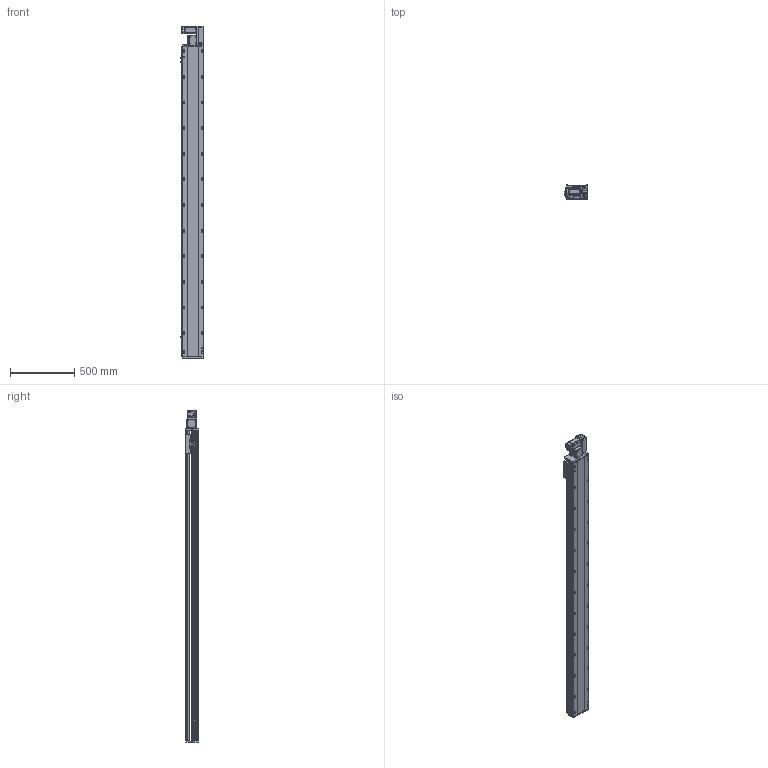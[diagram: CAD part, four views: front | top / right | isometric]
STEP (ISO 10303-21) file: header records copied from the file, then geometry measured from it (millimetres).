
FILE_DESCRIPTION (( 'STEP AP214' ), '1' );
FILE_NAME ('RTB17S-XX-2150-R-M40-C4.STEP', '2025-12-11T07:44:54', ( '' ), ( '' ), 'SwSTEP 2.0', 'SolidWorks 2018', '' );
FILE_SCHEMA (( 'AUTOMOTIVE_DESIGN' ));
Length unit declared in the file: millimetre
Products named in the file (14): RTB17S-R-々湍釱蚾饜-400W^RTB17S-XX-XX-R-M40-C4; RTB14-L-008-M20--萇儂啣^RTB17S-R-々湍釱蚾饜-400W_RTB17S-XX-XX-R-M40-C4; RTB14-L-005P--轴承塑胶压盖^RTB17S-R-皮带座装配-400W_RTB17S-XX-XX-R-M40-C4; RTB17S-L-014-T20--々湍釱^RTB17S-R-々湍釱蚾饜-400W_RTB17S-XX-XX-R-M40-C4; RTB17-R-011菁釱^RTB17S-XX-XX-R-M40-C4; RTH13-BL-012覜茼え俋离^RTB17S-XX-XX-R-M40-C4; RTB14-L-017P^RTB17S-R-々湍釱蚾饜-400W_RTB17S-XX-XX-R-M40-C4; RTB14-L-018P^RTB17S-R-々湍釱蚾饜-400W_RTB17S-XX-XX-R-M40-C4; OMRON EE-SX672 传感器^RTB17S-XX-XX-R-M40-C4; RTB17S-L-001耜醱啣^RTB17S-XX-XX-R-M40-C4; RTB17S-L-004佪裝蹟譫蟀諉釱^RTB17S-XX-XX-R-M40-C4; RTB17S-L-007奻裔^RTB17S-XX-XX-R-M40-C4; RTB17S-XX-2150-R-M40-C4; 400W侜督萇儂^RTB17S-XX-XX-R-M40-C4
Assembly tree (16 placements, depth 3):
  RTB17S-XX-2150-R-M40-C4
    RTB17-R-011菁釱^RTB17S-XX-XX-R-M40-C4
    RTB17S-L-007奻裔^RTB17S-XX-XX-R-M40-C4
    OMRON EE-SX672 传感器^RTB17S-XX-XX-R-M40-C4  x3
    RTB17S-L-001耜醱啣^RTB17S-XX-XX-R-M40-C4
    400W侜督萇儂^RTB17S-XX-XX-R-M40-C4
    RTB17S-L-004佪裝蹟譫蟀諉釱^RTB17S-XX-XX-R-M40-C4
    RTH13-BL-012覜茼え俋离^RTB17S-XX-XX-R-M40-C4
    RTB17S-R-々湍釱蚾饜-400W^RTB17S-XX-XX-R-M40-C4
      RTB17S-L-014-T20--々湍釱^RTB17S-R-々湍釱蚾饜-400W_RTB17S-XX-XX-R-M40-C4
      RTB14-L-005P--轴承塑胶压盖^RTB17S-R-皮带座装配-400W_RTB17S-XX-XX-R-M40-C4
      RTB14-L-008-M20--萇儂啣^RTB17S-R-々湍釱蚾饜-400W_RTB17S-XX-XX-R-M40-C4
      RTB14-L-017P^RTB17S-R-々湍釱蚾饜-400W_RTB17S-XX-XX-R-M40-C4  x2
      RTB14-L-018P^RTB17S-R-々湍釱蚾饜-400W_RTB17S-XX-XX-R-M40-C4
Bounding box: 183.5 x 108 x 2591 mm (x, y, z)
Volume: 21752506.4 mm3; surface area: 2520749.9 mm2
Topology: 15 solids, 15 shells, 2301 faces, 6411 edges, 4185 vertices
Faces by surface type: plane 1080, cylinder 773, bspline 301, cone 139, torus 8
Entity records: 67241 total; most frequent: CARTESIAN_POINT 19016, ORIENTED_EDGE 9666, DIRECTION 8936, EDGE_CURVE 4833, VERTEX_POINT 3173, AXIS2_PLACEMENT_3D 3103, VECTOR 2730, LINE 2730
